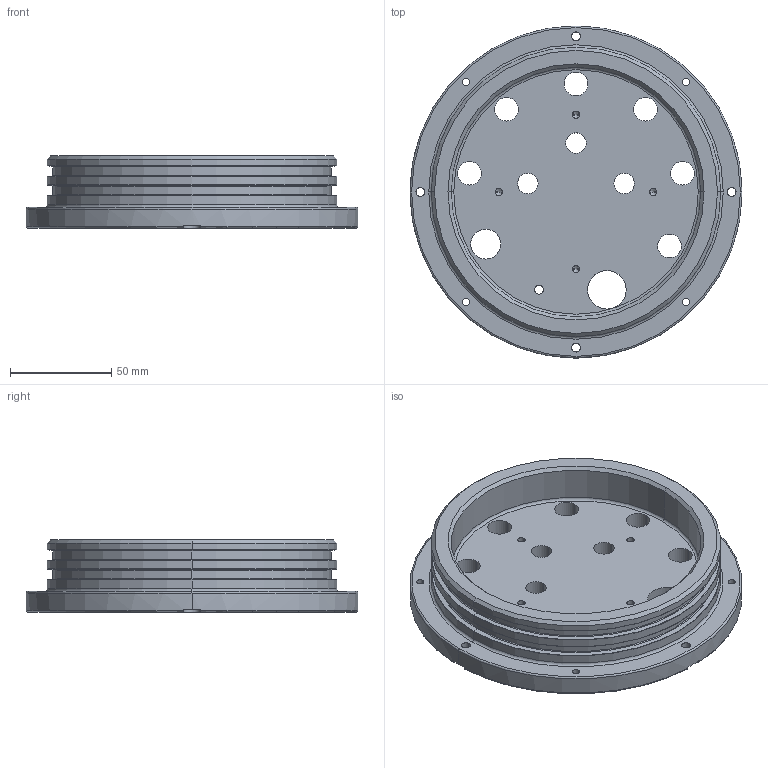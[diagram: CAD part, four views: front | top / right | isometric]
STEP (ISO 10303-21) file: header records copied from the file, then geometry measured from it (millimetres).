
FILE_DESCRIPTION (( 'STEP AP203' ), '1' );
FILE_NAME ('100222007-3 Housing B Connector Endcap, Interface_A.STEP', '2023-09-14T16:46:03', ( '' ), ( '' ), 'SwSTEP 2.0', 'SolidWorks 2023', '' );
FILE_SCHEMA (( 'CONFIG_CONTROL_DESIGN' ));
Length unit declared in the file: inch
Products named in the file (1): 100222007-3 Housing B Connector Endcap, Interface_A
Bounding box: 163.83 x 163.83 x 35.56 mm (x, y, z)
Volume: 353962.9 mm3; surface area: 75183.6 mm2
Topology: 1 solids, 1 shells, 477 faces, 1215 edges, 779 vertices
Faces by surface type: plane 176, bspline 136, cylinder 103, cone 36, torus 26
Entity records: 22522 total; most frequent: CARTESIAN_POINT 11638, ORIENTED_EDGE 2394, DIRECTION 1873, EDGE_CURVE 1197, VERTEX_POINT 779, LINE 645, VECTOR 645, AXIS2_PLACEMENT_3D 614
